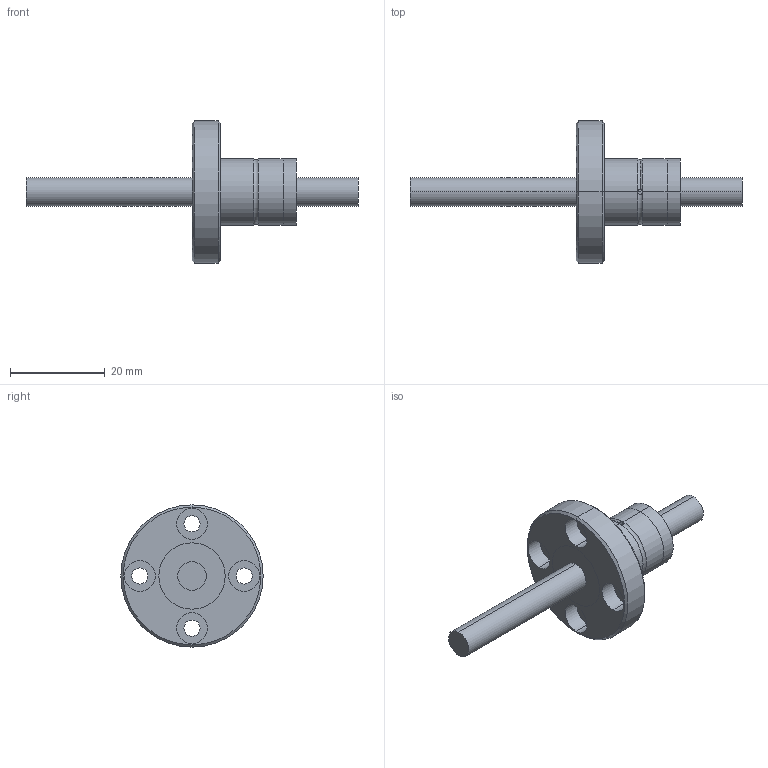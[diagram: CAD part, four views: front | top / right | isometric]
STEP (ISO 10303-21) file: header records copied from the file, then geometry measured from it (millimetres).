
FILE_DESCRIPTION (( 'STEP AP203' ), '1' );
FILE_NAME ('KLF006T2.STEP', '2023-08-17T07:18:52', ( '' ), ( '' ), 'SwSTEP 2.0', 'SolidWorks 2022', '' );
FILE_SCHEMA (( 'CONFIG_CONTROL_DESIGN' ));
Length unit declared in the file: millimetre
Products named in the file (5): KLF006T2; 零件6^KLF006T2; 塑胶2^KLF006T2; 塑胶1^KLF006T2; 主体^KLF006T2
Assembly tree (4 placements, depth 2):
  KLF006T2
    主体^KLF006T2
    塑胶1^KLF006T2
    塑胶2^KLF006T2
    零件6^KLF006T2
Bounding box: 70 x 30 x 30 mm (x, y, z)
Volume: 7470.4 mm3; surface area: 5455.4 mm2
Topology: 4 solids, 4 shells, 61 faces, 133 edges, 82 vertices
Faces by surface type: cylinder 40, plane 14, cone 4, torus 3
Entity records: 2329 total; most frequent: CARTESIAN_POINT 389, DIRECTION 336, ORIENTED_EDGE 266, AXIS2_PLACEMENT_3D 145, EDGE_CURVE 133, VERTEX_POINT 82, EDGE_LOOP 81, CIRCLE 77
